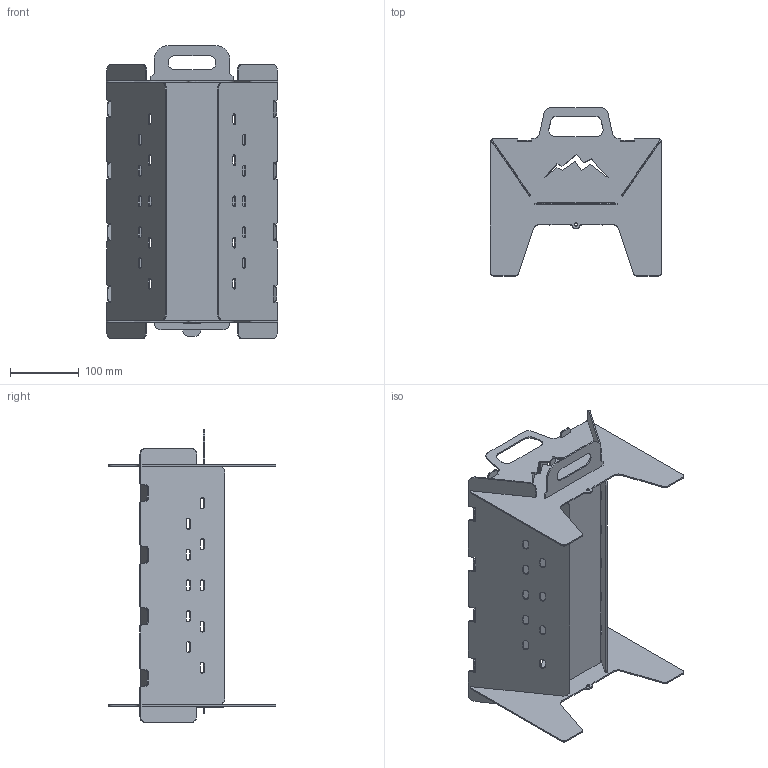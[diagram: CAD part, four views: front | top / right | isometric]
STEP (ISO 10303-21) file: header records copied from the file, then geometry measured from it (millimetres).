
FILE_DESCRIPTION (( 'STEP AP203' ), '1' );
FILE_NAME ('Portatif Mangal.STEP', '2023-12-10T20:06:59', ( '' ), ( '' ), 'SwSTEP 2.0', 'SolidWorks 2023', '' );
FILE_SCHEMA (( 'CONFIG_CONTROL_DESIGN' ));
Length unit declared in the file: millimetre
Products named in the file (6): Taban Sacı; Yan Duvar; Ayak_Dağ Desenli; Portatif Mangal; Izgara Sacı_Yuvarlak Izgara; Kama
Assembly tree (7 placements, depth 2):
  Portatif Mangal
    Ayak_Dağ Desenli  x2
    Yan Duvar  x2
    Taban Sacı
    Izgara Sacı_Yuvarlak Izgara
    Kama
Bounding box: 250 x 245 x 427.5 mm (x, y, z)
Volume: 616707.6 mm3; surface area: 646418.2 mm2
Topology: 7 solids, 7 shells, 680 faces, 1974 edges, 1308 vertices
Faces by surface type: plane 396, cylinder 270, bspline 14
Entity records: 18382 total; most frequent: CARTESIAN_POINT 3660, ORIENTED_EDGE 2964, DIRECTION 2882, EDGE_CURVE 1482, LINE 1038, VECTOR 1038, VERTEX_POINT 980, AXIS2_PLACEMENT_3D 922
